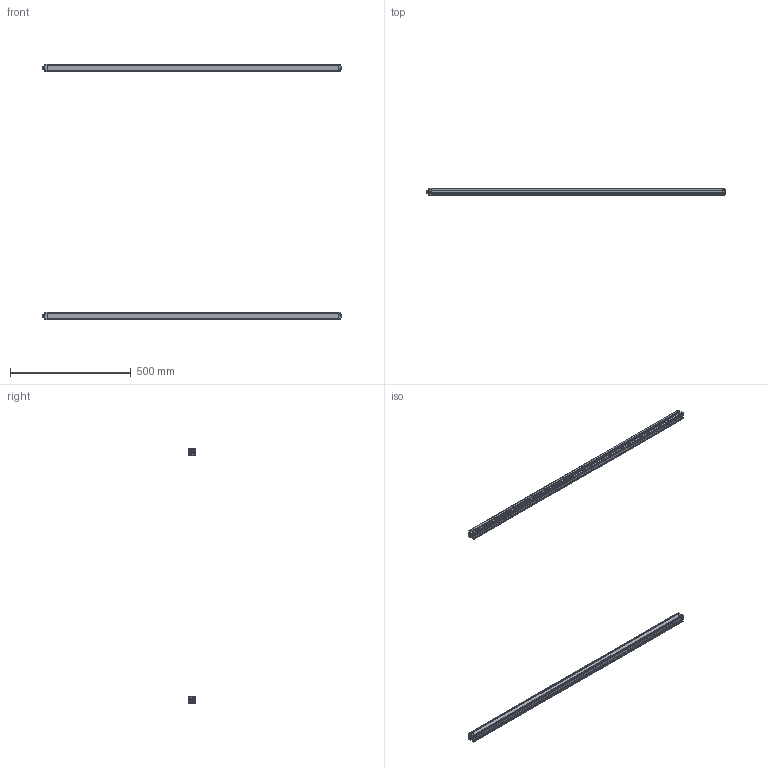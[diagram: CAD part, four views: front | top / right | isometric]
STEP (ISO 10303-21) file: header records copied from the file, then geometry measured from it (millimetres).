
FILE_DESCRIPTION(/* description */ ('CAx-IF Rec.Pracs.---Representation and Presentation of Product Manufacturing Information (PMI)---4.0---2014-10-13','CAx-IF Rec.Pracs.---3D Tessellated Geometry---0.4---2014-09-14','2;1'),/* implementation_level */ '4;1');
FILE_NAME(/* name */ 'THS10-118',/* time_stamp */ '2024-06-14T16:39:41+08:00',/* author */ (''),/* organization */ (' '),/* preprocessor_version */ 'ST-DEVELOPER v16.7',/* originating_system */ $,/* authorisation */ $);
FILE_SCHEMA (('AUTOMOTIVE_DESIGN { 1 0 10303 214 3 1 1 }','AP242_MANAGED_MODEL_BASED_3D_ENGINEERING_MIM_LF { 1 0 10303 442 20130219 1 4 }'));
Length unit declared in the file: millimetre
Products named in the file (12): THS10-118; THS10-100; 11; 101; 102; 13; 12; ASM0002_ASM; 14; 16
Assembly tree (18 placements, depth 4):
  THS10-118
    THS10-100
      11
      101
      102
      13
      12
      ASM0002_ASM
        14
        16
    THS10-100
      11
      101
      102
      13
      12
      ASM0002_ASM
        14
        16
Bounding box: 1237 x 30.3 x 1058.6 mm (x, y, z)
Volume: 756301.7 mm3; surface area: 815169.3 mm2
Topology: 10 solids, 14 shells, 1080 faces, 3010 edges, 1986 vertices
Faces by surface type: plane 764, cylinder 288, cone 28
Entity records: 18706 total; most frequent: CARTESIAN_POINT 3396, DIRECTION 3125, ORIENTED_EDGE 3006, EDGE_CURVE 1505, LINE 1173, VECTOR 1173, AXIS2_PLACEMENT_3D 1073, VERTEX_POINT 993
